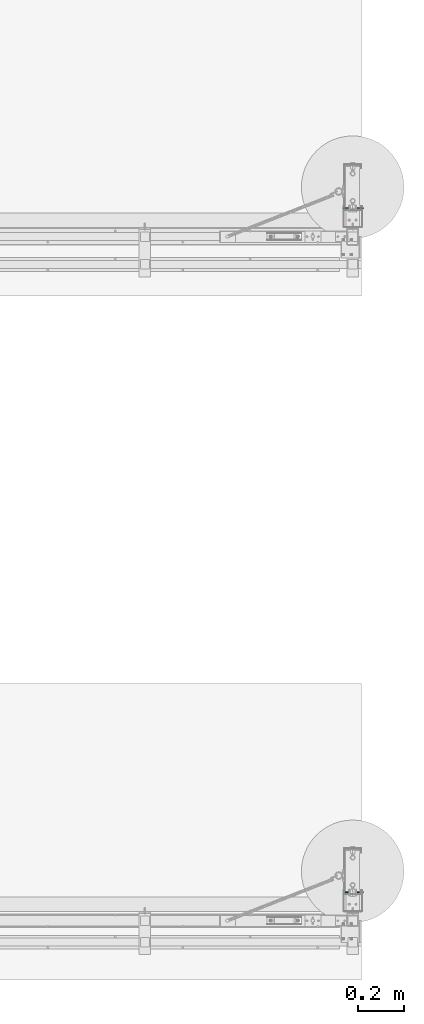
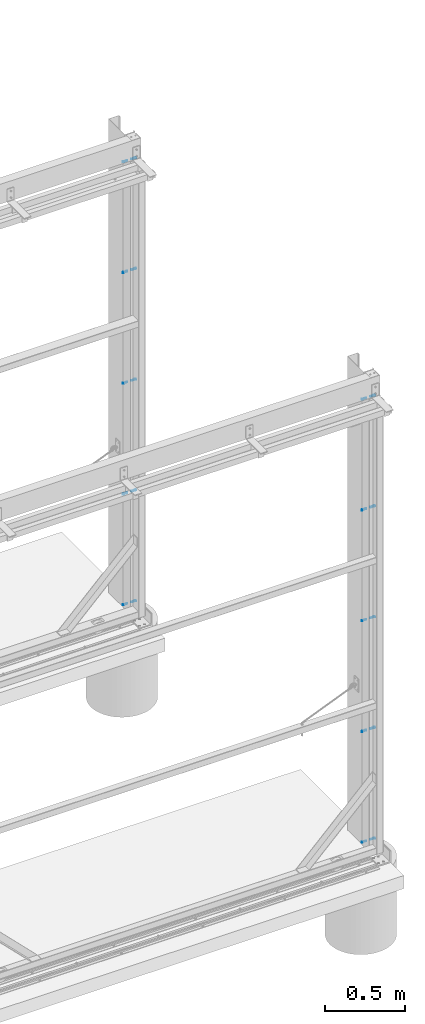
# One storey, part 15 of 91: 4 mechanical fasteners, 2 elements without a shape of their own.
"""IFC2X3 building model written with IfcOpenShell, lengths in millimetres."""

from ifc_helpers import new_model, si_unit, frame, origin_with_axes, origin_2d_with_axis, place, context, subcontext, project, spatial, polyline, circle, outline, extrude, source, transform, mapped, material, type_object, element, aggregate, save


model = new_model("IFC2X3")

# Units and contexts
model_context = context("Model", 3, precision=1e-05, world=origin_with_axes())
body_context = subcontext(model_context, "Body", "Model", "MODEL_VIEW")
ifc_project = project(units=[si_unit("LENGTHUNIT", "METRE", prefix="MILLI"), si_unit("AREAUNIT", "SQUARE_METRE"), si_unit("VOLUMEUNIT", "CUBIC_METRE"), si_unit("MASSUNIT", "GRAM", prefix="KILO"), si_unit("TIMEUNIT", "SECOND"), si_unit("PLANEANGLEUNIT", "RADIAN"), si_unit("SOLIDANGLEUNIT", "STERADIAN"), si_unit("THERMODYNAMICTEMPERATUREUNIT", "DEGREE_CELSIUS"), si_unit("LUMINOUSINTENSITYUNIT", "LUMEN")], contexts=[model_context])

# Site, building, storey
site_placement = place(None, origin_with_axes())
site = spatial("IfcSite", under=ifc_project, at=site_placement, Name="Undefined", CompositionType="ELEMENT")
building_placement = place(site_placement, origin_with_axes())
building = spatial("IfcBuilding", under=site, at=building_placement, Name="Undefined", CompositionType="ELEMENT")
storey_placement = place(building_placement, origin_with_axes())
storey = spatial("IfcBuildingStorey", under=building, at=storey_placement, Name="Undefined", CompositionType="ELEMENT", Elevation=0.0)

# Assembly, mechanical fastener
assembly_1_placement = place(storey_placement, origin_with_axes())
assembly_1 = element("IfcElementAssembly", 1, at=assembly_1_placement, inside=storey, Name="FOLDED CHANNEL", AssemblyPlace="NOTDEFINED", PredefinedType="RIGID_FRAME")
ifc_material = material(Name="TEK_16TPIM")
discrete_accessory_type = type_object("IfcDiscreteAccessoryType", Name="Bolt assembly")
shared_shape_1 = source(origin_with_axes(), body_context, "Body", "SweptSolid", [
    extrude(circle(Radius=3.5, at=origin_2d_with_axis()), frame((0.0, -1.0, 0.0), z_axis=(0.0, 1.0, 0.0), x_axis=(1.0, 0.0, 0.0)), (0.0, 0.0, 1.0), 1.1),
    extrude(outline(polyline([(4.04145188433, 0.0), (2.020725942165, 3.5000000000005), (-2.020725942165, 3.5000000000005), (-4.04145188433, 0.0), (-2.020725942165, -3.5000000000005), (2.020725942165, -3.5000000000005), (4.04145188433, 0.0)])), frame((0.0, -6.10000000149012, 0.0), z_axis=(0.0, 1.0, 0.0), x_axis=(1.0, 0.0, 0.0)), (0.0, 0.0, 1.0), 5.0),
    extrude(circle(Radius=2.5, at=origin_2d_with_axis()), frame((0.0, -1.10000000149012, 0.0), z_axis=(0.0, 1.0, 0.0), x_axis=(1.0, 0.0, 0.0)), (0.0, 0.0, 1.0), 25.0),
    extrude(circle(Radius=2.5, at=origin_2d_with_axis()), frame((0.0, -1.10000000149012, 0.0), z_axis=(0.0, 1.0, 0.0), x_axis=(1.0, 0.0, 0.0)), (0.0, 0.0, 1.0), 0.1),
    extrude(circle(Radius=2.5, at=origin_2d_with_axis()), frame((0.0, 0.0, 0.0), z_axis=(0.0, 1.0, 0.0), x_axis=(1.0, 0.0, 0.0)), (0.0, 0.0, 1.0), 0.1),
    extrude(outline(polyline([(2.88675134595, 0.0), (1.443375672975, 2.50000000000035), (-1.443375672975, 2.50000000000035), (-2.88675134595, 0.0), (-1.443375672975, -2.50000000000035), (1.443375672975, -2.50000000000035), (2.88675134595, 0.0)])), frame((0.0, 0.1, 0.0), z_axis=(0.0, 1.0, 0.0), x_axis=(1.0, 0.0, 0.0)), (0.0, 0.0, 1.0), 0.1),
])
mechanical_fastener_1_placement = place(assembly_1_placement, frame((-107722.34, 87837.15, -7.0), z_axis=(0.0, 1.0, 0.0), x_axis=(0.0, 0.0, 1.0)))
mechanical_fastener_1 = element("IfcMechanicalFastener", 2, at=mechanical_fastener_1_placement, type_object=discrete_accessory_type, material=ifc_material, Name="Bolt assembly", NominalDiameter=5.0, NominalLength=25.0, context=body_context, shape_type="MappedRepresentation", body=[
    mapped(shared_shape_1, transform((0.0, 0.0, 0.0))),
    mapped(shared_shape_1, transform((848.75, 0.0, 0.0))),
    mapped(shared_shape_1, transform((1697.5, 0.0, 0.0))),
    mapped(shared_shape_1, transform((2546.25, 0.0, 0.0))),
    mapped(shared_shape_1, transform((3395.0, 0.0, 0.0))),
])

assembly_2_placement = place(storey_placement, origin_with_axes())
assembly_2 = element("IfcElementAssembly", 3, at=assembly_2_placement, inside=storey, Name="FOLDED CHANNEL", AssemblyPlace="NOTDEFINED", PredefinedType="RIGID_FRAME")
mechanical_fastener_2_placement = place(assembly_2_placement, frame((-107722.34, 84837.15, -7.0), z_axis=(0.0, 1.0, 0.0), x_axis=(0.0, 0.0, 1.0)))
mechanical_fastener_2 = element("IfcMechanicalFastener", 4, at=mechanical_fastener_2_placement, type_object=discrete_accessory_type, material=ifc_material, Name="Bolt assembly", NominalDiameter=5.0, NominalLength=25.0, context=body_context, shape_type="MappedRepresentation", body=[
    mapped(shared_shape_1, transform((0.0, 0.0, 0.0))),
    mapped(shared_shape_1, transform((848.75, 0.0, 0.0))),
    mapped(shared_shape_1, transform((1697.5, 0.0, 0.0))),
    mapped(shared_shape_1, transform((2546.25, 0.0, 0.0))),
    mapped(shared_shape_1, transform((3395.0, 0.0, 0.0))),
])

# Mechanical fastener
shared_shape_2 = source(origin_with_axes(), body_context, "Body", "SweptSolid", [
    extrude(circle(Radius=3.5, at=origin_2d_with_axis()), frame((0.0, -4.00000000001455, 0.0), z_axis=(0.0, 1.0, 0.0), x_axis=(1.0, 0.0, 0.0)), (0.0, 0.0, 1.0), 1.1),
    extrude(outline(polyline([(4.04145188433, 0.0), (2.020725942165, 3.5000000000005), (-2.020725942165, 3.5000000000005), (-4.04145188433, 0.0), (-2.020725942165, -3.5000000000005), (2.020725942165, -3.5000000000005), (4.04145188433, 0.0)])), frame((0.0, -9.10000000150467, 0.0), z_axis=(0.0, 1.0, 0.0), x_axis=(1.0, 0.0, 0.0)), (0.0, 0.0, 1.0), 5.0),
    extrude(circle(Radius=2.5, at=origin_2d_with_axis()), frame((0.0, -4.10000000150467, 0.0), z_axis=(0.0, 1.0, 0.0), x_axis=(1.0, 0.0, 0.0)), (0.0, 0.0, 1.0), 25.0),
    extrude(circle(Radius=2.5, at=origin_2d_with_axis()), frame((0.0, -4.10000000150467, 0.0), z_axis=(0.0, 1.0, 0.0), x_axis=(1.0, 0.0, 0.0)), (0.0, 0.0, 1.0), 0.1),
    extrude(circle(Radius=2.5, at=origin_2d_with_axis()), frame((0.0, -3.00000000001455, 0.0), z_axis=(0.0, 1.0, 0.0), x_axis=(1.0, 0.0, 0.0)), (0.0, 0.0, 1.0), 0.1),
    extrude(outline(polyline([(2.88675134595, 0.0), (1.443375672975, 2.50000000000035), (-1.443375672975, 2.50000000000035), (-2.88675134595, 0.0), (-1.443375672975, -2.50000000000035), (1.443375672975, -2.50000000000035), (2.88675134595, 0.0)])), frame((0.0, -2.89999999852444, 0.0), z_axis=(0.0, 1.0, 0.0), x_axis=(1.0, 0.0, 0.0)), (0.0, 0.0, 1.0), 0.1),
])
mechanical_fastener_3_placement = place(assembly_1_placement, frame((-107644.34, 87837.15, -7.0), z_axis=(0.0, -1.0, 0.0), x_axis=(0.0, 0.0, 1.0)))
mechanical_fastener_3 = element("IfcMechanicalFastener", 5, at=mechanical_fastener_3_placement, type_object=discrete_accessory_type, material=ifc_material, Name="Bolt assembly", NominalDiameter=5.0, NominalLength=25.0, context=body_context, shape_type="MappedRepresentation", body=[
    mapped(shared_shape_2, transform((0.0, 0.0, 0.0))),
    mapped(shared_shape_2, transform((848.75, 0.0, 0.0))),
    mapped(shared_shape_2, transform((1697.5, 0.0, 0.0))),
    mapped(shared_shape_2, transform((2546.25, 0.0, 0.0))),
    mapped(shared_shape_2, transform((3395.0, 0.0, 0.0))),
])

aggregate(assembly_1, [mechanical_fastener_1, mechanical_fastener_3])

mechanical_fastener_4_placement = place(assembly_2_placement, frame((-107644.34, 84837.15, -7.0), z_axis=(0.0, -1.0, 0.0), x_axis=(0.0, 0.0, 1.0)))
mechanical_fastener_4 = element("IfcMechanicalFastener", 6, at=mechanical_fastener_4_placement, type_object=discrete_accessory_type, material=ifc_material, Name="Bolt assembly", NominalDiameter=5.0, NominalLength=25.0, context=body_context, shape_type="MappedRepresentation", body=[
    mapped(shared_shape_2, transform((0.0, 0.0, 0.0))),
    mapped(shared_shape_2, transform((848.75, 0.0, 0.0))),
    mapped(shared_shape_2, transform((1697.5, 0.0, 0.0))),
    mapped(shared_shape_2, transform((2546.25, 0.0, 0.0))),
    mapped(shared_shape_2, transform((3395.0, 0.0, 0.0))),
])

aggregate(assembly_2, [mechanical_fastener_2, mechanical_fastener_4])

save(model, "model.ifc")
